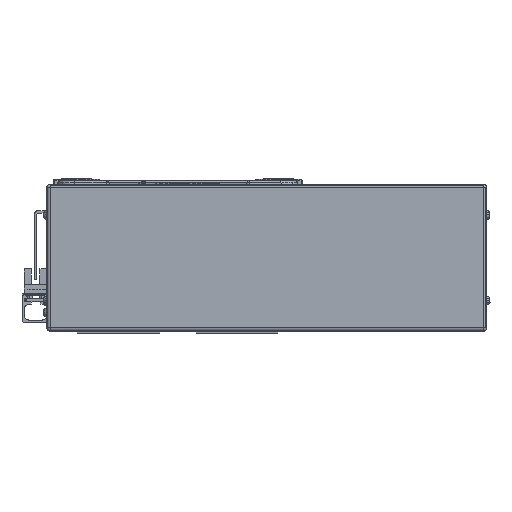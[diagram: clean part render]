
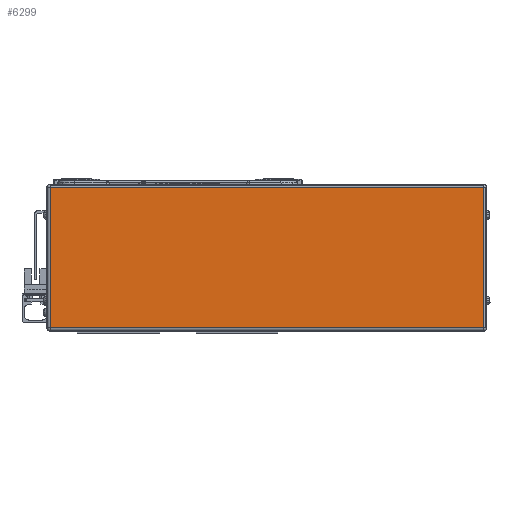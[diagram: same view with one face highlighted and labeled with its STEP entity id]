
A CAD part, left-side view. The second image highlights one B-rep face of the part: STEP entity #6299.
In plain terms, the highlighted planar face has unit normal (-1, 0, 0).
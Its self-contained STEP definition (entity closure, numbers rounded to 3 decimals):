
#6299=ADVANCED_FACE('',(#13522),#13523,.T.);
#13522=FACE_OUTER_BOUND('',#23039,.T.);
#13523=PLANE('',#23040);
#23039=EDGE_LOOP('',(#40882,#40883,#40884,#40885));
#23040=AXIS2_PLACEMENT_3D('',#40886,#40887,#40888);
#40882=ORIENTED_EDGE('',*,*,#56893,.F.);
#40883=ORIENTED_EDGE('',*,*,#54746,.F.);
#40884=ORIENTED_EDGE('',*,*,#57122,.F.);
#40885=ORIENTED_EDGE('',*,*,#57123,.F.);
#40886=CARTESIAN_POINT('',(-45.,-180.5,0.));
#40887=DIRECTION('',(-1.0,0.,0.));
#40888=DIRECTION('',(0.,0.,1.0));
#54746=EDGE_CURVE('',#65470,#64858,#67106,.T.);
#56893=EDGE_CURVE('',#64858,#67726,#70030,.T.);
#57122=EDGE_CURVE('',#67265,#65470,#70320,.T.);
#57123=EDGE_CURVE('',#67726,#67265,#70321,.T.);
#64858=VERTEX_POINT('',#80813);
#65470=VERTEX_POINT('',#81653);
#67106=LINE('',#83890,#83891);
#67265=VERTEX_POINT('',#84099);
#67726=VERTEX_POINT('',#84745);
#70030=LINE('',#87943,#87944);
#70320=LINE('',#88343,#88344);
#70321=LINE('',#88345,#88346);
#80813=CARTESIAN_POINT('',(-45.,-178.5,41.));
#81653=CARTESIAN_POINT('',(-45.,74.5,41.));
#83890=CARTESIAN_POINT('',(-45.,-180.5,41.));
#83891=VECTOR('',#98074,10.0);
#84099=CARTESIAN_POINT('',(-45.,74.5,-41.));
#84745=CARTESIAN_POINT('',(-45.,-178.5,-41.));
#87943=CARTESIAN_POINT('',(-45.,-178.5,0.));
#87944=VECTOR('',#100748,10.0);
#88343=CARTESIAN_POINT('',(-45.,74.5,0.));
#88344=VECTOR('',#100972,10.0);
#88345=CARTESIAN_POINT('',(-45.,-180.5,-41.));
#88346=VECTOR('',#100973,10.0);
#98074=DIRECTION('',(0.,-1.0,0.));
#100748=DIRECTION('',(0.,0.,-1.0));
#100972=DIRECTION('',(0.,0.,1.0));
#100973=DIRECTION('',(0.,1.0,0.));
